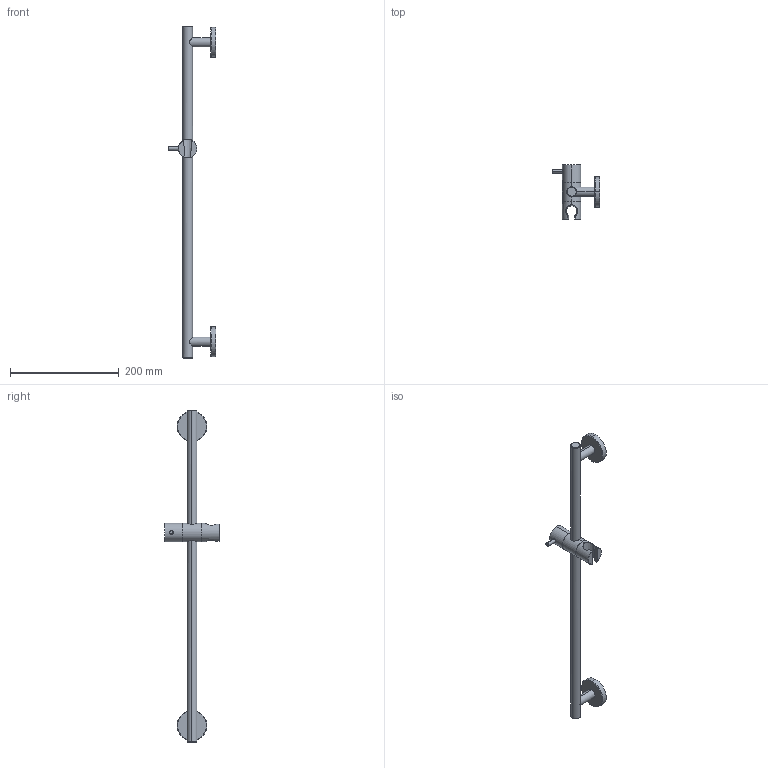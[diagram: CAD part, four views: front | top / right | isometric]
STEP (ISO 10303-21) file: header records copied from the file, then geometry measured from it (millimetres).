
FILE_DESCRIPTION (( 'STEP AP203' ), '1' );
FILE_NAME ('ASO3.STEP', '2017-01-12T14:39:22', ( '' ), ( '' ), 'SwSTEP 2.0', 'SolidWorks 2014', '' );
FILE_SCHEMA (( 'CONFIG_CONTROL_DESIGN' ));
Length unit declared in the file: millimetre
Products named in the file (1): ASO3
Bounding box: 88 x 100.2 x 610 mm (x, y, z)
Volume: 288158.7 mm3; surface area: 62058.3 mm2
Topology: 1 solids, 1 shells, 57 faces, 128 edges, 80 vertices
Faces by surface type: cylinder 24, plane 16, torus 10, cone 7
Entity records: 2281 total; most frequent: CARTESIAN_POINT 932, DIRECTION 276, ORIENTED_EDGE 256, EDGE_CURVE 128, AXIS2_PLACEMENT_3D 118, VERTEX_POINT 80, EDGE_LOOP 64, CIRCLE 60
